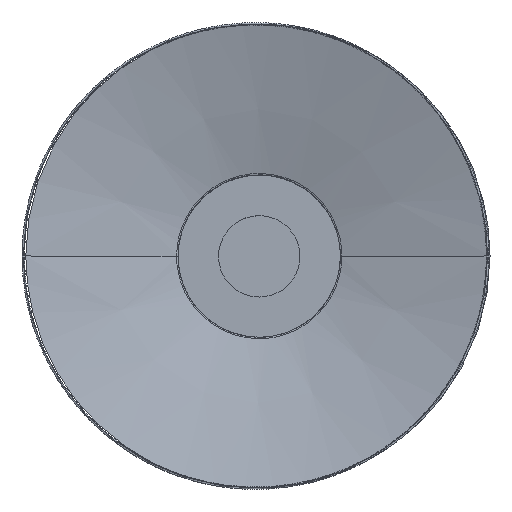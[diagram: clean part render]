
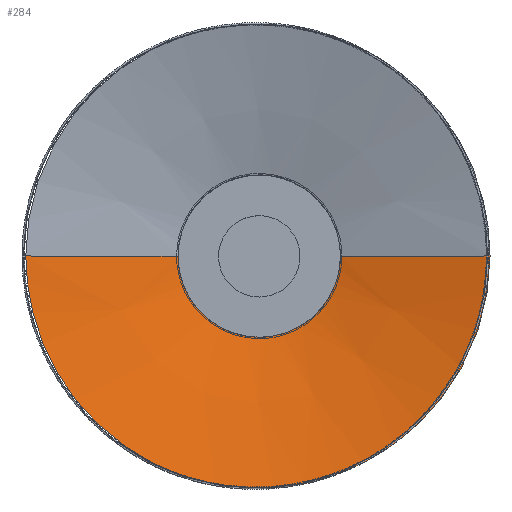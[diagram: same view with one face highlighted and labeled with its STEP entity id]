
A CAD part, top view. The second image highlights one B-rep face of the part: STEP entity #284.
In plain terms, the highlighted free-form (B-spline) face has degree [1, 2] with [2, 5] control points.
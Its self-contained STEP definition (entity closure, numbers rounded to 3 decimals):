
#41=B_SPLINE_CURVE_WITH_KNOTS('',3,(#3843,#3844,#3845,#3846,#3847,#3848,
#3849,#3850,#3851,#3852,#3853,#3854,#3855,#3856,#3857,#3858,#3859,#3860,
#3861,#3862),.UNSPECIFIED.,.F.,.F.,(4,2,2,2,3,3,2,2,4),(0.,20.64,
41.28,61.92,82.56,83.792,124.6,
144.956,165.313),.UNSPECIFIED.);
#42=B_SPLINE_CURVE_WITH_KNOTS('',3,(#3863,#3864,#3865,#3866,#3867,#3868,
#3869,#3870,#3871,#3872,#3873,#3874,#3875,#3876,#3877,#3878,#3879,#3880,
#3881,#3882,#3883,#3884,#3885),.UNSPECIFIED.,.F.,.F.,(4,3,2,2,3,3,2,2,2,
4),(0.,1.734,21.964,42.194,82.747,
83.968,104.301,124.634,144.968,165.301),
 .UNSPECIFIED.);
#43=B_SPLINE_CURVE_WITH_KNOTS('',1,(#3886,#3887,#3888),.UNSPECIFIED.,.F.,
 .F.,(2,1,2),(98.334,98.523,118.338),
 .UNSPECIFIED.);
#44=B_SPLINE_CURVE_WITH_KNOTS('',1,(#3894,#3895),.UNSPECIFIED.,.F.,.F.,
(2,2),(97.975,118.338),.UNSPECIFIED.);
#284=ADVANCED_FACE('',(#352),#1485,.T.);
#352=FACE_OUTER_BOUND('',#422,.T.);
#422=EDGE_LOOP('',(#678,#679,#680,#681,#682));
#678=ORIENTED_EDGE('',*,*,#945,.F.);
#679=ORIENTED_EDGE('',*,*,#944,.F.);
#680=ORIENTED_EDGE('',*,*,#946,.T.);
#681=ORIENTED_EDGE('',*,*,#947,.T.);
#682=ORIENTED_EDGE('',*,*,#948,.F.);
#944=EDGE_CURVE('',#1411,#1412,#41,.T.);
#945=EDGE_CURVE('',#1412,#1414,#42,.T.);
#946=EDGE_CURVE('',#1411,#1413,#43,.T.);
#947=EDGE_CURVE('',#1413,#1415,#1172,.T.);
#948=EDGE_CURVE('',#1414,#1415,#44,.T.);
#1172=(
BOUNDED_CURVE()
B_SPLINE_CURVE(2,(#3889,#3890,#3891,#3892,#3893),.UNSPECIFIED.,.F.,.F.)
B_SPLINE_CURVE_WITH_KNOTS((3,2,3),(0.,58.809,117.619),
 .UNSPECIFIED.)
CURVE()
GEOMETRIC_REPRESENTATION_ITEM()
RATIONAL_B_SPLINE_CURVE((1.,0.707,1.,0.707,1.))
REPRESENTATION_ITEM('')
);
#1411=VERTEX_POINT('',#3838);
#1412=VERTEX_POINT('',#3839);
#1413=VERTEX_POINT('',#3840);
#1414=VERTEX_POINT('',#3841);
#1415=VERTEX_POINT('',#3842);
#1485=(
BOUNDED_SURFACE()
B_SPLINE_SURFACE(1,2,((#3818,#3819,#3820,#3821,#3822),(#3823,#3824,#3825,
#3826,#3827)),.UNSPECIFIED.,.F.,.F.,.F.)
B_SPLINE_SURFACE_WITH_KNOTS((2,2),(3,2,3),(87.294,126.588),
(0.,58.809,117.619),.UNSPECIFIED.)
GEOMETRIC_REPRESENTATION_ITEM()
RATIONAL_B_SPLINE_SURFACE(((1.,0.707,1.,0.707,1.),
(1.,0.707,1.,0.707,1.)))
REPRESENTATION_ITEM('')
SURFACE()
);
#3818=CARTESIAN_POINT('',(-379554.915,-16205.274,216.945));
#3819=CARTESIAN_POINT('',(-379554.915,-16205.274,216.945));
#3820=CARTESIAN_POINT('',(-379554.915,-16205.274,216.945));
#3821=CARTESIAN_POINT('',(-379554.915,-16205.274,216.945));
#3822=CARTESIAN_POINT('',(-379554.915,-16205.274,216.945));
#3823=CARTESIAN_POINT('',(-379175.189,-16205.274,316.873));
#3824=CARTESIAN_POINT('',(-379175.189,-16584.999,316.873));
#3825=CARTESIAN_POINT('',(-379554.915,-16584.999,316.873));
#3826=CARTESIAN_POINT('',(-379934.641,-16584.999,316.873));
#3827=CARTESIAN_POINT('',(-379934.641,-16205.274,316.873));
#3838=CARTESIAN_POINT('',(-379448.221,-16205.274,245.022));
#3839=CARTESIAN_POINT('',(-379553.181,-16310.226,244.567));
#3840=CARTESIAN_POINT('',(-379254.915,-16205.274,295.892));
#3841=CARTESIAN_POINT('',(-379658.14,-16205.274,244.109));
#3842=CARTESIAN_POINT('',(-379854.915,-16205.274,295.892));
#3843=CARTESIAN_POINT('',(-379448.221,-16205.274,245.022));
#3844=CARTESIAN_POINT('',(-379448.222,-16212.148,245.022));
#3845=CARTESIAN_POINT('',(-379448.897,-16219.006,245.019));
#3846=CARTESIAN_POINT('',(-379451.58,-16232.491,245.007));
#3847=CARTESIAN_POINT('',(-379453.581,-16239.085,244.998));
#3848=CARTESIAN_POINT('',(-379458.843,-16251.787,244.976));
#3849=CARTESIAN_POINT('',(-379462.092,-16257.864,244.962));
#3850=CARTESIAN_POINT('',(-379469.73,-16269.296,244.929));
#3851=CARTESIAN_POINT('',(-379474.102,-16274.623,244.91));
#3852=CARTESIAN_POINT('',(-379478.963,-16279.484,244.889));
#3853=CARTESIAN_POINT('',(-379479.253,-16279.774,244.888));
#3854=CARTESIAN_POINT('',(-379479.545,-16280.063,244.886));
#3855=CARTESIAN_POINT('',(-379479.839,-16280.35,244.885));
#3856=CARTESIAN_POINT('',(-379489.551,-16289.836,244.843));
#3857=CARTESIAN_POINT('',(-379501.011,-16297.349,244.794));
#3858=CARTESIAN_POINT('',(-379519.856,-16305.025,244.712));
#3859=CARTESIAN_POINT('',(-379526.36,-16306.967,244.684));
#3860=CARTESIAN_POINT('',(-379539.652,-16309.57,244.626));
#3861=CARTESIAN_POINT('',(-379546.408,-16310.226,244.597));
#3862=CARTESIAN_POINT('',(-379553.181,-16310.226,244.567));
#3863=CARTESIAN_POINT('',(-379553.181,-16310.226,244.567));
#3864=CARTESIAN_POINT('',(-379553.759,-16310.226,244.565));
#3865=CARTESIAN_POINT('',(-379554.337,-16310.221,244.562));
#3866=CARTESIAN_POINT('',(-379554.915,-16310.212,244.56));
#3867=CARTESIAN_POINT('',(-379561.644,-16310.1,244.531));
#3868=CARTESIAN_POINT('',(-379568.347,-16309.342,244.501));
#3869=CARTESIAN_POINT('',(-379581.516,-16306.553,244.444));
#3870=CARTESIAN_POINT('',(-379587.95,-16304.528,244.416));
#3871=CARTESIAN_POINT('',(-379606.568,-16296.635,244.335));
#3872=CARTESIAN_POINT('',(-379617.858,-16289.024,244.285));
#3873=CARTESIAN_POINT('',(-379627.398,-16279.484,244.243));
#3874=CARTESIAN_POINT('',(-379627.686,-16279.196,244.242));
#3875=CARTESIAN_POINT('',(-379627.972,-16278.907,244.241));
#3876=CARTESIAN_POINT('',(-379628.257,-16278.616,244.24));
#3877=CARTESIAN_POINT('',(-379632.99,-16273.771,244.219));
#3878=CARTESIAN_POINT('',(-379637.242,-16268.48,244.2));
#3879=CARTESIAN_POINT('',(-379644.669,-16257.153,244.168));
#3880=CARTESIAN_POINT('',(-379647.826,-16251.143,244.154));
#3881=CARTESIAN_POINT('',(-379652.937,-16238.6,244.132));
#3882=CARTESIAN_POINT('',(-379654.879,-16232.095,244.123));
#3883=CARTESIAN_POINT('',(-379657.484,-16218.803,244.112));
#3884=CARTESIAN_POINT('',(-379658.14,-16212.046,244.109));
#3885=CARTESIAN_POINT('',(-379658.14,-16205.274,244.109));
#3886=CARTESIAN_POINT('',(-379448.221,-16205.274,245.022));
#3887=CARTESIAN_POINT('',(-379446.402,-16205.274,245.501));
#3888=CARTESIAN_POINT('',(-379254.915,-16205.274,295.892));
#3889=CARTESIAN_POINT('',(-379254.915,-16205.274,295.892));
#3890=CARTESIAN_POINT('',(-379254.915,-16505.274,295.892));
#3891=CARTESIAN_POINT('',(-379554.915,-16505.274,295.892));
#3892=CARTESIAN_POINT('',(-379854.915,-16505.274,295.892));
#3893=CARTESIAN_POINT('',(-379854.915,-16205.274,295.892));
#3894=CARTESIAN_POINT('',(-379658.14,-16205.274,244.109));
#3895=CARTESIAN_POINT('',(-379854.915,-16205.274,295.892));
